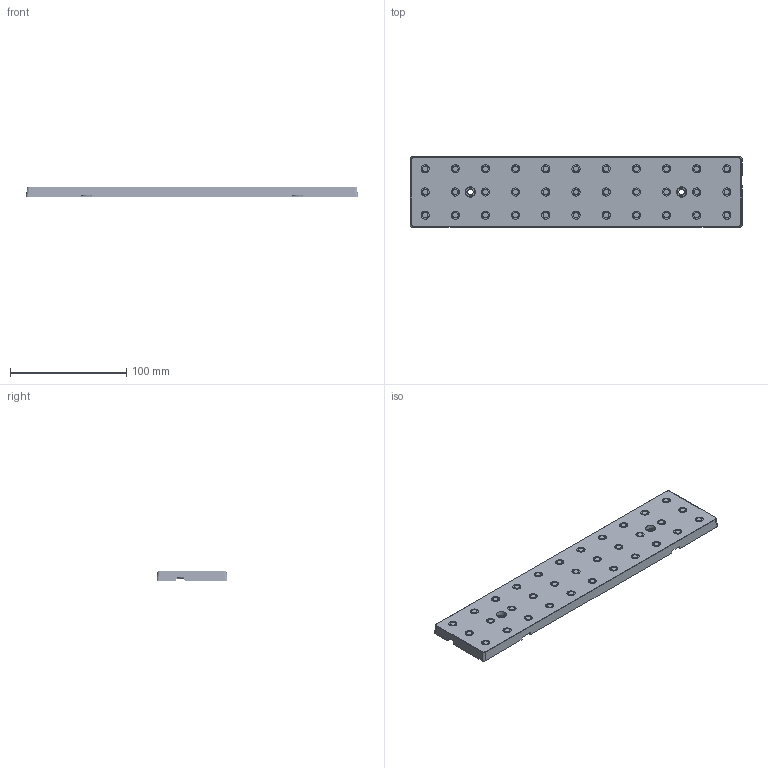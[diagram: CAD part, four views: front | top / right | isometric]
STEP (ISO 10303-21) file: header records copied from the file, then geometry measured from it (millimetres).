
FILE_DESCRIPTION(('CATIA V5 STEP Exchange'),'2;1');
FILE_NAME('C:\Users\joni.palm\Desktop\MechanicalModel_FLORENCE-Z60-Z90.stp','2014-03-24T13:18:58+00:00',('none'),('none'),'Version 5-6 Release 2013','CATIA V5 STEP AP203','none');
FILE_SCHEMA(('CONFIG_CONTROL_DESIGN'));
Products named in the file (1): 20130829_F13853_FLORENCE-Z_rev1_MechanicalModel
Bounding box: 286 x 61 x 8.63 mm (x, y, z)
Volume: 88724.3 mm3; surface area: 45959.9 mm2
Topology: 1 solids, 1 shells, 2863 faces, 6985 edges, 4031 vertices
Faces by surface type: cone 1189, bspline 847, torus 586, sphere 132, plane 77, cylinder 24, revolution 8
Entity records: 159741 total; most frequent: CARTESIAN_POINT 108968, ORIENTED_EDGE 13706, EDGE_CURVE 6853, DIRECTION 5668, VERTEX_POINT 4031, AXIS2_PLACEMENT_3D 3488, EDGE_LOOP 2906, ADVANCED_FACE 2863
